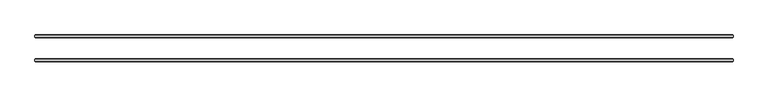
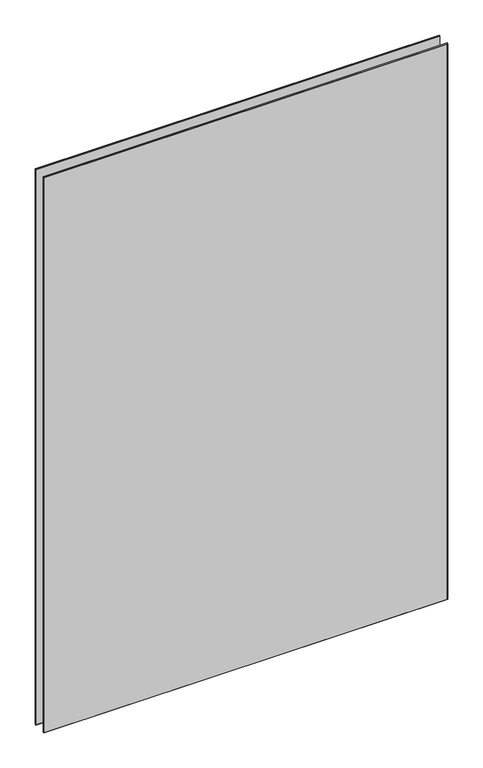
"""IFC4 building model written with IfcOpenShell, lengths in millimetres: plate geometry, 3-AMG-2-Панель двойной витраж 8, 10 : Смещение 32 Толщина 8mm."""

from ifc_helpers import new_model, si_unit, origin, place, context, project, spatial, faceted_brep, source, transform, mapped, element, save


def plate_54f217e4(model_context):
    return source(origin(), model_context, "Body", "Brep", [
        faceted_brep([(936.2830578, -34.4961653, 2722.8), (936.2830578, -29.5038347, 2722.8), (-941.2830578, -29.5038347, 2722.8), (-941.2830578, -34.4961653, 2722.8), (936.2830578, -29.5038347, -7.0), (936.2830578, -34.4961653, -7.0), (-941.2830578, -34.4961653, -7.0), (-941.2830578, -29.5038347, -7.0), (-939.7792231, -28.0, 2721.2961653), (934.7792231, -28.0, 2721.2961653), (934.7792231, -28.0, -5.5039422), (-939.7792231, -28.0, -5.5039422), (934.7792231, -36.0, 2721.2961653), (-939.7792231, -36.0, 2721.2961653), (-939.7792231, -36.0, -5.4961653), (934.7792231, -36.0, -5.4961653)], [[[0, 1, 2, 3]], [[4, 5, 6, 7]], [[8, 9, 10, 11]], [[3, 2, 7, 6]], [[12, 13, 14, 15]], [[1, 0, 5, 4]], [[1, 4, 10, 9]], [[5, 0, 12, 15]], [[0, 3, 13, 12]], [[2, 1, 9, 8]], [[7, 2, 8, 11]], [[3, 6, 14, 13]], [[6, 5, 15, 14]], [[4, 7, 11, 10]]]),
        faceted_brep([(936.2830578, 29.5038347, 2722.8), (936.2830578, 34.4961653, 2722.8), (-941.2830578, 34.4961653, 2722.8), (-941.2830578, 29.5038347, 2722.8), (936.2830578, 34.4961653, -7.0), (936.2830578, 29.5038347, -7.0), (-941.2830578, 29.5038347, -7.0), (-941.2830578, 34.4961653, -7.0), (-939.7792231, 36.0, 2721.2961653), (934.7792231, 36.0, 2721.2961653), (934.7792231, 36.0, -5.5039422), (-939.7792231, 36.0, -5.5039422), (934.7792231, 28.0, 2721.2961653), (-939.7792231, 28.0, 2721.2961653), (-939.7792231, 28.0, -5.4961653), (934.7792231, 28.0, -5.4961653)], [[[0, 1, 2, 3]], [[4, 5, 6, 7]], [[8, 9, 10, 11]], [[3, 2, 7, 6]], [[12, 13, 14, 15]], [[1, 0, 5, 4]], [[1, 4, 10, 9]], [[5, 0, 12, 15]], [[7, 2, 8, 11]], [[3, 6, 14, 13]], [[0, 3, 13, 12]], [[2, 1, 9, 8]], [[6, 5, 15, 14]], [[4, 7, 11, 10]]]),
    ])


if __name__ == "__main__":
    model = new_model("IFC4")
    model_context = context("Model", 3, world=origin())
    ifc_project = project(units=[si_unit("LENGTHUNIT", "METRE", prefix="MILLI")], contexts=[model_context])
    site = spatial("IfcSite", under=ifc_project)
    building = spatial("IfcBuilding", under=site)
    placement = place(None, origin())
    plate_shape = plate_54f217e4(model_context)
    element("IfcPlate", 1, ObjectType="3-AMG-2-Панель двойной витраж 8, 10 : Смещение 32 Толщина 8mm", at=placement, inside=building, context=model_context, shape_type="MappedRepresentation", body=[
        mapped(plate_shape, transform((0.0, 0.0, 0.0), x_axis=(1.0, 0.0, 0.0), y_axis=(0.0, 1.0, 0.0), z_axis=(0.0, 0.0, 1.0))),
    ])
    save(model, "model.ifc")
